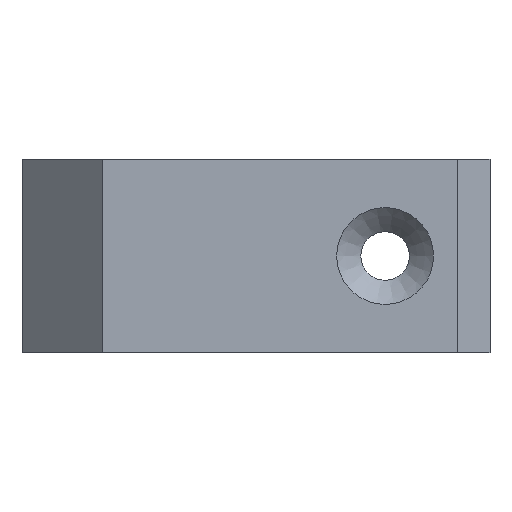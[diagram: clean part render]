
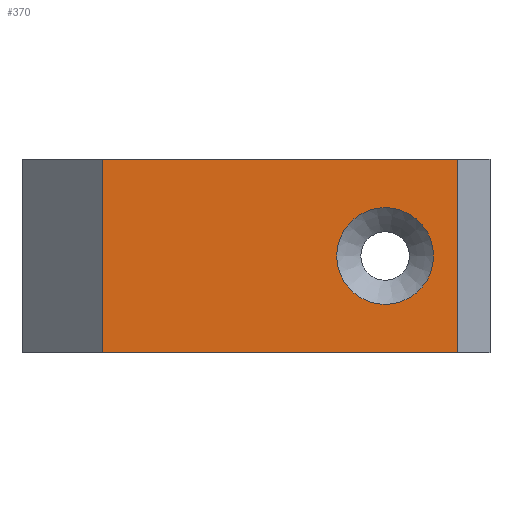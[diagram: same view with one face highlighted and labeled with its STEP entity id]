
A CAD part, left-side view. The second image highlights one B-rep face of the part: STEP entity #370.
In plain terms, the highlighted planar face has unit normal (-1, 0, 0).
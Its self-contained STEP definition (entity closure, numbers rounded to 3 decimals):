
#21=FACE_BOUND('',#73,.T.);
#32=CIRCLE('',#391,3.);
#49=FACE_OUTER_BOUND('',#72,.T.);
#72=EDGE_LOOP('',(#315,#316,#317,#318));
#73=EDGE_LOOP('',(#319));
#96=LINE('',#533,#136);
#104=LINE('',#555,#144);
#110=LINE('',#569,#150);
#121=LINE('',#596,#161);
#136=VECTOR('',#427,10.);
#144=VECTOR('',#445,10.);
#150=VECTOR('',#457,10.);
#161=VECTOR('',#486,10.);
#174=VERTEX_POINT('',#530);
#175=VERTEX_POINT('',#532);
#183=VERTEX_POINT('',#551);
#189=VERTEX_POINT('',#568);
#194=VERTEX_POINT('',#580);
#210=EDGE_CURVE('',#174,#175,#96,.T.);
#221=EDGE_CURVE('',#175,#183,#104,.T.);
#228=EDGE_CURVE('',#183,#189,#110,.T.);
#234=EDGE_CURVE('',#194,#194,#32,.T.);
#242=EDGE_CURVE('',#189,#174,#121,.T.);
#315=ORIENTED_EDGE('',*,*,#221,.F.);
#316=ORIENTED_EDGE('',*,*,#210,.F.);
#317=ORIENTED_EDGE('',*,*,#242,.F.);
#318=ORIENTED_EDGE('',*,*,#228,.F.);
#319=ORIENTED_EDGE('',*,*,#234,.T.);
#352=PLANE('',#399);
#370=ADVANCED_FACE('',(#49,#21),#352,.T.);
#391=AXIS2_PLACEMENT_3D('',#581,#465,#466);
#399=AXIS2_PLACEMENT_3D('',#598,#488,#489);
#427=DIRECTION('',(0.,-1.,0.));
#445=DIRECTION('',(0.,0.,-1.));
#457=DIRECTION('',(0.,1.,0.));
#465=DIRECTION('center_axis',(1.,0.,0.));
#466=DIRECTION('ref_axis',(0.,-1.,0.));
#486=DIRECTION('',(0.,0.,1.));
#488=DIRECTION('center_axis',(-1.,0.,0.));
#489=DIRECTION('ref_axis',(0.,1.,0.));
#530=CARTESIAN_POINT('',(-12.1,3.,10.));
#532=CARTESIAN_POINT('',(-12.1,-19.,10.));
#533=CARTESIAN_POINT('',(-12.1,8.,10.));
#551=CARTESIAN_POINT('',(-12.1,-19.,-2.));
#555=CARTESIAN_POINT('',(-12.1,-19.,10.));
#568=CARTESIAN_POINT('',(-12.1,3.,-2.));
#569=CARTESIAN_POINT('',(-12.1,-18.,-2.));
#580=CARTESIAN_POINT('',(-12.1,-17.5,4.));
#581=CARTESIAN_POINT('Origin',(-12.1,-14.5,4.));
#596=CARTESIAN_POINT('',(-12.1,3.,10.));
#598=CARTESIAN_POINT('Origin',(-12.1,-21.,10.));
